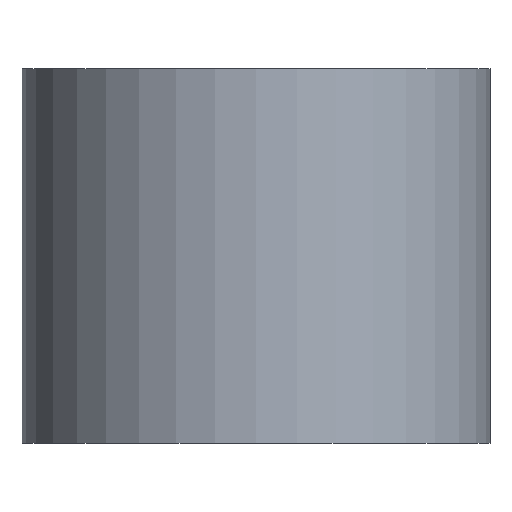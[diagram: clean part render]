
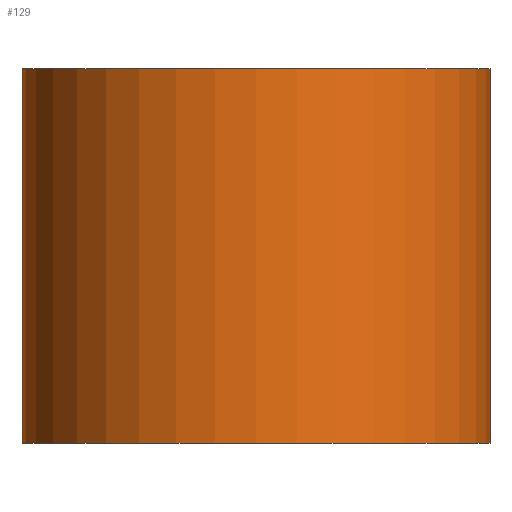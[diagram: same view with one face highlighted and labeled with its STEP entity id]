
A CAD part, front view. The second image highlights one B-rep face of the part: STEP entity #129.
In plain terms, the highlighted cylindrical face has radius 25 mm (diameter 50 mm), a partial arc.
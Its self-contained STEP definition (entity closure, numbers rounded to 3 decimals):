
#102=CYLINDRICAL_SURFACE('',#250,25.);
#108=FACE_OUTER_BOUND('',#150,.T.);
#113=LINE('',#337,#119);
#114=LINE('',#338,#120);
#119=VECTOR('',#295,1.);
#120=VECTOR('',#296,1.);
#129=ADVANCED_FACE('',(#108),#102,.T.);
#150=EDGE_LOOP('',(#183,#184,#185,#186));
#183=ORIENTED_EDGE('',*,*,#215,.F.);
#184=ORIENTED_EDGE('',*,*,#214,.T.);
#185=ORIENTED_EDGE('',*,*,#216,.T.);
#186=ORIENTED_EDGE('',*,*,#199,.F.);
#187=VERTEX_POINT('',#303);
#188=VERTEX_POINT('',#304);
#197=VERTEX_POINT('',#333);
#198=VERTEX_POINT('',#334);
#199=EDGE_CURVE('',#187,#188,#217,.T.);
#214=EDGE_CURVE('',#198,#197,#228,.T.);
#215=EDGE_CURVE('',#198,#187,#113,.T.);
#216=EDGE_CURVE('',#197,#188,#114,.T.);
#217=CIRCLE('',#230,25.);
#228=CIRCLE('',#247,25.);
#230=AXIS2_PLACEMENT_3D('',#302,#253,#254);
#247=AXIS2_PLACEMENT_3D('',#335,#291,#292);
#250=AXIS2_PLACEMENT_3D('',#340,#299,#300);
#253=DIRECTION('',(0.,0.,1.));
#254=DIRECTION('',(0.,1.,0.));
#291=DIRECTION('',(0.,0.,1.));
#292=DIRECTION('',(0.,1.,0.));
#295=DIRECTION('',(0.,0.,1.));
#296=DIRECTION('',(0.,0.,1.));
#299=DIRECTION('',(0.,0.,1.));
#300=DIRECTION('',(0.,-1.,0.));
#302=CARTESIAN_POINT('',(0.,0.,40.));
#303=CARTESIAN_POINT('',(-25.,0.,40.));
#304=CARTESIAN_POINT('',(25.,0.,40.));
#333=CARTESIAN_POINT('',(25.,0.,0.));
#334=CARTESIAN_POINT('',(-25.,0.,0.));
#335=CARTESIAN_POINT('',(0.,0.,0.));
#337=CARTESIAN_POINT('',(-25.,0.,0.));
#338=CARTESIAN_POINT('',(25.,0.,0.));
#340=CARTESIAN_POINT('',(0.,0.,0.));
